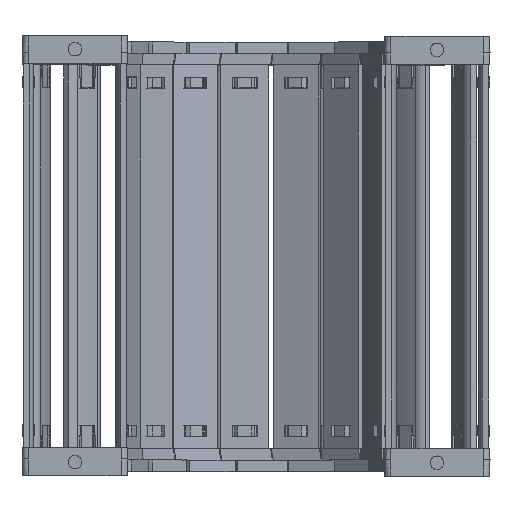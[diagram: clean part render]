
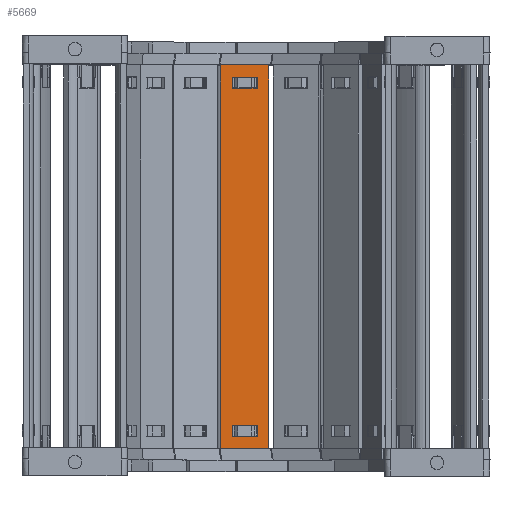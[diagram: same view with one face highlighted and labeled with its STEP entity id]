
A CAD part, top view. The second image highlights one B-rep face of the part: STEP entity #5669.
In plain terms, the highlighted planar face has unit normal (0.035, 0, 0.999) as drawn and (0, 1, 0) by its records, which use the part's own axes.
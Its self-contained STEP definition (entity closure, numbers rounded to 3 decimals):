
#5089=DIRECTION('',(0.,0.,1.));
#5090=VECTOR('',#5089,15.8);
#5091=CARTESIAN_POINT('',(110.74,1.5,-7.9));
#5092=LINE('',#5091,#5090);
#5093=DIRECTION('',(-1.,0.,0.));
#5094=VECTOR('',#5093,125.5);
#5095=CARTESIAN_POINT('',(110.74,1.5,7.9));
#5096=LINE('',#5095,#5094);
#5097=DIRECTION('',(0.,0.,-1.));
#5098=VECTOR('',#5097,15.8);
#5099=CARTESIAN_POINT('',(-14.76,1.5,7.9));
#5100=LINE('',#5099,#5098);
#5101=DIRECTION('',(1.,0.,0.));
#5102=VECTOR('',#5101,3.648);
#5103=CARTESIAN_POINT('',(103.122,1.5,4.075));
#5104=LINE('',#5103,#5102);
#5105=DIRECTION('',(0.,0.,-1.));
#5106=VECTOR('',#5105,8.15);
#5107=CARTESIAN_POINT('',(106.77,1.5,4.075));
#5108=LINE('',#5107,#5106);
#5109=DIRECTION('',(-1.,0.,0.));
#5110=VECTOR('',#5109,3.648);
#5111=CARTESIAN_POINT('',(106.77,1.5,-4.075));
#5112=LINE('',#5111,#5110);
#5113=DIRECTION('',(0.,0.,-1.));
#5114=VECTOR('',#5113,8.15);
#5115=CARTESIAN_POINT('',(-7.142,1.5,4.075));
#5116=LINE('',#5115,#5114);
#5117=DIRECTION('',(-1.,0.,0.));
#5118=VECTOR('',#5117,3.648);
#5119=CARTESIAN_POINT('',(-7.142,1.5,-4.075));
#5120=LINE('',#5119,#5118);
#5121=DIRECTION('',(0.,0.,1.));
#5122=VECTOR('',#5121,8.15);
#5123=CARTESIAN_POINT('',(-10.79,1.5,-4.075));
#5124=LINE('',#5123,#5122);
#5125=DIRECTION('',(1.,0.,0.));
#5126=VECTOR('',#5125,3.648);
#5127=CARTESIAN_POINT('',(-10.79,1.5,4.075));
#5128=LINE('',#5127,#5126);
#5133=DIRECTION('',(-1.,0.,0.));
#5134=VECTOR('',#5133,125.5);
#5135=CARTESIAN_POINT('',(110.74,1.5,-7.9));
#5136=LINE('',#5135,#5134);
#5254=DIRECTION('',(0.,0.,-1.));
#5255=VECTOR('',#5254,8.15);
#5256=CARTESIAN_POINT('',(103.122,1.5,4.075));
#5257=LINE('',#5256,#5255);
#5439=CARTESIAN_POINT('',(106.77,1.5,4.075));
#5440=VERTEX_POINT('',#5439);
#5441=CARTESIAN_POINT('',(103.122,1.5,4.075));
#5442=VERTEX_POINT('',#5441);
#5483=CARTESIAN_POINT('',(103.122,1.5,-4.075));
#5484=VERTEX_POINT('',#5483);
#5485=CARTESIAN_POINT('',(106.77,1.5,-4.075));
#5486=VERTEX_POINT('',#5485);
#5487=CARTESIAN_POINT('',(110.74,1.5,7.9));
#5489=VERTEX_POINT('',#5487);
#5491=CARTESIAN_POINT('',(110.74,1.5,-7.9));
#5492=VERTEX_POINT('',#5491);
#5515=CARTESIAN_POINT('',(-7.142,1.5,4.075));
#5516=CARTESIAN_POINT('',(-7.142,1.5,-4.075));
#5517=VERTEX_POINT('',#5515);
#5518=VERTEX_POINT('',#5516);
#5519=CARTESIAN_POINT('',(-10.79,1.5,-4.075));
#5520=VERTEX_POINT('',#5519);
#5521=CARTESIAN_POINT('',(-10.79,1.5,4.075));
#5522=VERTEX_POINT('',#5521);
#5523=CARTESIAN_POINT('',(-14.76,1.5,7.9));
#5524=VERTEX_POINT('',#5523);
#5527=CARTESIAN_POINT('',(-14.76,1.5,-7.9));
#5528=VERTEX_POINT('',#5527);
#5638=CARTESIAN_POINT('',(142.48,1.5,10.061));
#5639=DIRECTION('',(0.,-1.,0.));
#5640=DIRECTION('',(0.,0.,-1.));
#5641=AXIS2_PLACEMENT_3D('',#5638,#5639,#5640);
#5642=PLANE('',#5641);
#5643=ORIENTED_EDGE('',*,*,#5577,.T.);
#5644=ORIENTED_EDGE('',*,*,#5603,.T.);
#5645=ORIENTED_EDGE('',*,*,#5616,.T.);
#5647=ORIENTED_EDGE('',*,*,#5646,.F.);
#5648=EDGE_LOOP('',(#5643,#5644,#5645,#5647));
#5649=FACE_OUTER_BOUND('',#5648,.F.);
#5651=ORIENTED_EDGE('',*,*,#5650,.F.);
#5652=ORIENTED_EDGE('',*,*,#5540,.T.);
#5654=ORIENTED_EDGE('',*,*,#5653,.T.);
#5656=ORIENTED_EDGE('',*,*,#5655,.T.);
#5657=EDGE_LOOP('',(#5651,#5652,#5654,#5656));
#5658=FACE_BOUND('',#5657,.F.);
#5660=ORIENTED_EDGE('',*,*,#5659,.T.);
#5662=ORIENTED_EDGE('',*,*,#5661,.T.);
#5664=ORIENTED_EDGE('',*,*,#5663,.T.);
#5666=ORIENTED_EDGE('',*,*,#5665,.T.);
#5667=EDGE_LOOP('',(#5660,#5662,#5664,#5666));
#5668=FACE_BOUND('',#5667,.F.);
#5669=ADVANCED_FACE('',(#5649,#5658,#5668),#5642,.F.);
#5540=EDGE_CURVE('',#5442,#5440,#5104,.T.);
#5577=EDGE_CURVE('',#5492,#5489,#5092,.T.);
#5603=EDGE_CURVE('',#5489,#5524,#5096,.T.);
#5616=EDGE_CURVE('',#5524,#5528,#5100,.T.);
#5646=EDGE_CURVE('',#5492,#5528,#5136,.T.);
#5650=EDGE_CURVE('',#5442,#5484,#5257,.T.);
#5653=EDGE_CURVE('',#5440,#5486,#5108,.T.);
#5655=EDGE_CURVE('',#5486,#5484,#5112,.T.);
#5659=EDGE_CURVE('',#5517,#5518,#5116,.T.);
#5661=EDGE_CURVE('',#5518,#5520,#5120,.T.);
#5663=EDGE_CURVE('',#5520,#5522,#5124,.T.);
#5665=EDGE_CURVE('',#5522,#5517,#5128,.T.);
